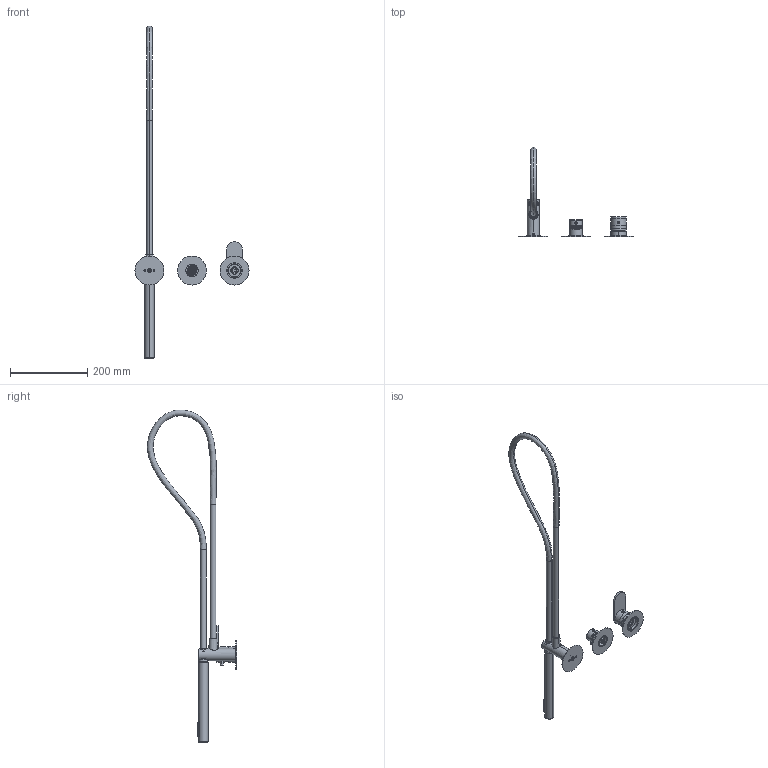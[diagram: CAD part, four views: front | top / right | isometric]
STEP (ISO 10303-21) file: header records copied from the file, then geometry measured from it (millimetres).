
FILE_DESCRIPTION((''),'2;1');
FILE_NAME('79559V221_SW0001','2026-10-07T09:15:47',('carloff'),(''),'CREO PARAMETRIC BY PTC INC, 2025443','CREO PARAMETRIC BY PTC INC, 2025443','');
FILE_SCHEMA(('CONFIG_CONTROL_DESIGN'));
Products named in the file (1): 79559V221_SW0001
Bounding box: 295 x 230.85 x 858.72 mm (x, y, z)
Volume: 505169.3 mm3; surface area: 177605.7 mm2
Topology: 8 solids, 8 shells, 1443 faces, 3639 edges, 2321 vertices
Faces by surface type: cylinder 600, plane 452, torus 215, cone 121, bspline 51, sphere 4
Entity records: 80054 total; most frequent: CARTESIAN_POINT 45436, ORIENTED_EDGE 7258, DIRECTION 7219, EDGE_CURVE 3629, AXIS2_PLACEMENT_3D 2879, VERTEX_POINT 2321, EDGE_LOOP 1640, CIRCLE 1487
